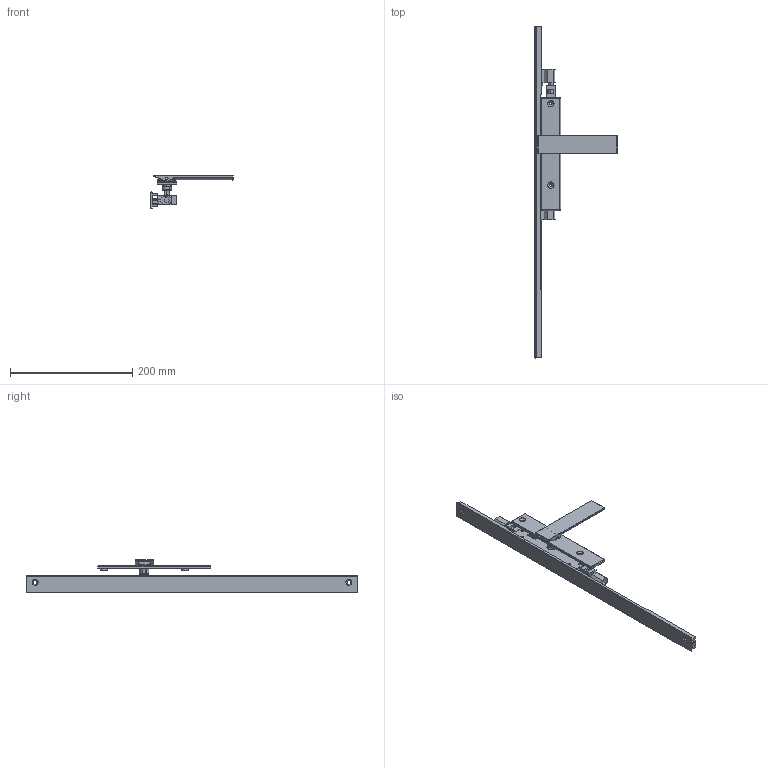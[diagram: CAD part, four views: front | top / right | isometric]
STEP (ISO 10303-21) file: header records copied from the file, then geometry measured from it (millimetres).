
FILE_DESCRIPTION (( 'STEP AP214' ), '1' );
FILE_NAME ('TPL-W-510-U 19July2024.STEP', '2024-12-05T00:03:07', ( '' ), ( '' ), 'SwSTEP 2.0', 'SolidWorks 2023', '' );
FILE_SCHEMA (( 'AUTOMOTIVE_DESIGN' ));
Length unit declared in the file: millimetre
Products named in the file (16): Copy of COV-112-A Cover A suit TPLGen2 standard range^TPL-W-010 19July2024_2870mm; Copy of TPLGen2 lock body non-keyed^Copy of TPLGen2 lock body non-keyed assembly_TPL-W-010 19July2024; TPLGen2 push rod - simplified^Copy of TPLGen2 lock body non-keyed assembly_TPL-W-010 19July2024_Female thread M10; Copy of TPLGen2 lock body non-keyed assembly^TPL-W-010 19July2024_Bolts retracted; Copy of Adapter CnE - simplfied^TPL-W-010 19July2024_26mm backset; Copy of TPGen2 handle non-keyed - simplified^TPL-W-010 19July2024_Right; Copy of Escutcheon plate unkeyed 185mm - simplified^Copy of TPGen2 handle non-keyed - simplified_TPL-W-010 19July2024; Copy of LKC-547 Spindle - simplified^Copy of TPGen2 handle non-keyed - simplified_TPL-W-010 19July2024_C - 15mm; TPL-W-510-U 19July2024; Copy of Adapter DnF - simplfied^TPL-W-010 19July2024_26mm backset; Copy of Handle sub-assembly - simplified^Copy of TPGen2 handle non-keyed - simplified_TPL-W-010 19July2024; Copy of Copy of Copy of LKC-531 Lock twinpoint transmission rod wood system^TPL-W-010 19July2024_Standard Range 2891.7mm; Copy of Copy of LKC-531 Lock twinpoint transmission rod wood system^TPL-W-010 19July2024_Standard Range 2891.7mm; COV-112-C Cover C TPLGen2 Lock body^TPL-W-010 19July2024; Bolt.step; COV-112-B Cover B suit TPLGen2 standard range^TPL-W-010 19July2024_2870mm
Assembly tree (13 placements, depth 3):
  Copy of COV-112-A Cover A suit TPLGen2 standard range^TPL-W-010 19July2024_2870mm
  TPL-W-510-U 19July2024
    Copy of TPLGen2 lock body non-keyed assembly^TPL-W-010 19July2024_Bolts retracted
      Copy of TPLGen2 lock body non-keyed^Copy of TPLGen2 lock body non-keyed assembly_TPL-W-010 19July2024
      TPLGen2 push rod - simplified^Copy of TPLGen2 lock body non-keyed assembly_TPL-W-010 19July2024_Female thread M10  x2
    Copy of TPGen2 handle non-keyed - simplified^TPL-W-010 19July2024_Right
      Copy of Escutcheon plate unkeyed 185mm - simplified^Copy of TPGen2 handle non-keyed - simplified_TPL-W-010 19July2024
      Copy of Handle sub-assembly - simplified^Copy of TPGen2 handle non-keyed - simplified_TPL-W-010 19July2024
      Copy of LKC-547 Spindle - simplified^Copy of TPGen2 handle non-keyed - simplified_TPL-W-010 19July2024_C - 15mm
    COV-112-C Cover C TPLGen2 Lock body^TPL-W-010 19July2024
    Copy of Copy of LKC-531 Lock twinpoint transmission rod wood system^TPL-W-010 19July2024_Standard Range 2891.7mm
    Copy of Copy of Copy of LKC-531 Lock twinpoint transmission rod wood system^TPL-W-010 19July2024_Standard Range 2891.7mm
    Copy of Adapter DnF - simplfied^TPL-W-010 19July2024_26mm backset
    Copy of Adapter CnE - simplfied^TPL-W-010 19July2024_26mm backset
  Bolt.step
  COV-112-B Cover B suit TPLGen2 standard range^TPL-W-010 19July2024_2870mm
Bounding box: 134.5 x 544 x 53.97 mm (x, y, z)
Volume: 209807.6 mm3; surface area: 119476.3 mm2
Topology: 12 solids, 12 shells, 637 faces, 1619 edges, 1023 vertices
Faces by surface type: plane 297, cylinder 199, bspline 77, torus 32, cone 20, sphere 12
Entity records: 19175 total; most frequent: CARTESIAN_POINT 4453, ORIENTED_EDGE 3022, DIRECTION 2875, EDGE_CURVE 1511, AXIS2_PLACEMENT_3D 993, VERTEX_POINT 963, VECTOR 889, LINE 889
